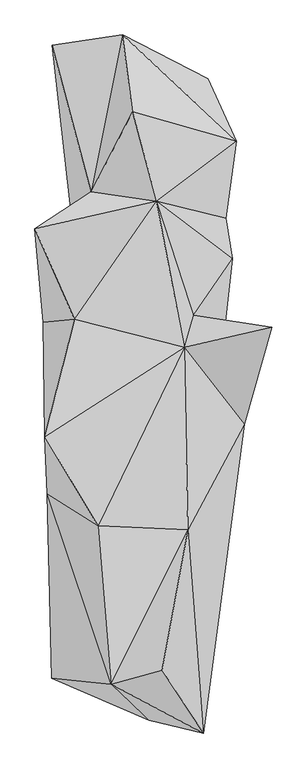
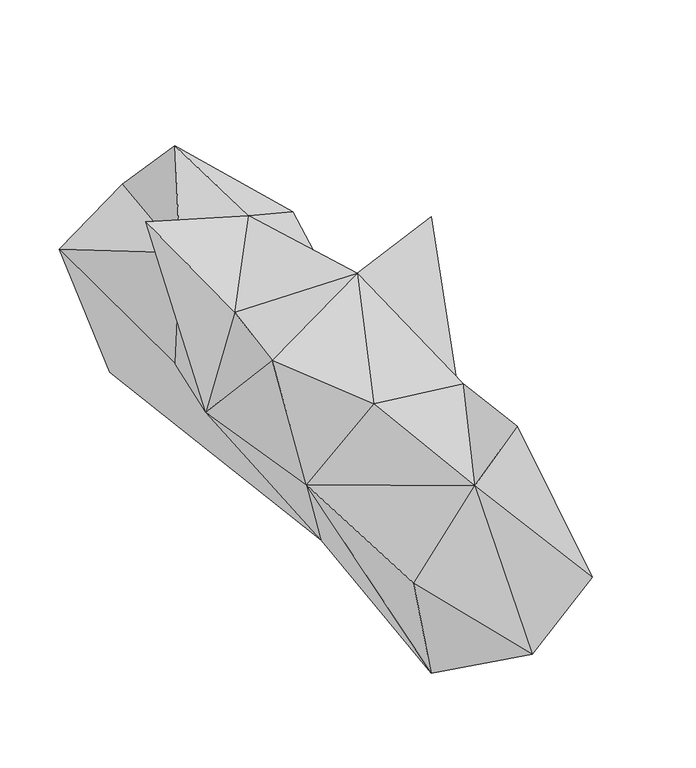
"""IFC4 building model written with IfcOpenShell, lengths in millimetres: geographic element geometry, Enscape AssetDefinition - Potted Plant 250 Snake Plant : Enscape AssetDefinition - Potted Plant 250 Snake Plant 8."""

from ifc_helpers import new_model, si_unit, origin, place, context, project, spatial, triangles, source, transform, mapped, element, save


def geographic_element_d4e18414(model_context):
    return source(origin(), model_context, "Body", "Tessellation", [
        triangles([(-11.7816346, 426.4016255, 344.6494572), (-26.7703863, 543.8439119, 215.2853512), (103.4185966, 476.7359442, 44.3406665), (21.6286898, 417.6580095, 0.0), (-74.7878224, 304.4520743, 263.3750939), (130.9742548, 264.0541223, 180.9388649), (147.0859076, 381.9339546, 207.0101114), (107.7775329, 283.2754054, 63.241961), (56.0657184, -54.7164821, 0.0), (25.1715445, 289.9134632, 299.0739687), (81.4434844, 116.7833604, 218.743316), (140.8495967, 202.3424458, 179.0017556), (116.4620864, -17.4634008, 111.9258444), (201.0504461, 98.1712788, 351.4402491), (159.0379306, -49.4811095, 161.7207065), (73.221053, -210.4869523, 306.1810567), (96.3442101, -520.4522801, 165.1440622), (107.1142286, -388.582713, 0.0), (13.2798807, -501.0731578, 54.8271358), (33.671246, -424.7638258, 380.0000247), (-64.4025824, -204.5631314, 318.3500087), (-135.0075206, -436.865449, 185.9158321), (-44.4274299, -445.7750796, 320.8900426), (-60.6792858, -55.4344843, 0.0), (-2.5695899, -379.597651, 0.0), (-103.1721364, -428.2029327, 20.3077448), (-141.5776682, -155.7817703, 181.2456594), (67.3688984, 67.7555663, 322.9264735), (-145.3292652, -68.9193261, 336.3283081), (-100.1586757, 110.0554008, 291.2489013), (-147.8963232, 106.1661215, 144.4773277), (-104.4805231, 265.6875255, 113.9226793), (-160.6952422, 248.2260005, 379.1248238), (-110.4005651, 432.6159265, 0.0), (-134.4095919, 528.3854805, 154.2263057)], [[4, 9, 24], [34, 4, 24], [4, 34, 35], [35, 34, 32], [24, 32, 34], [5, 35, 32], [5, 33, 10], [28, 10, 30], [33, 30, 10], [31, 33, 5], [24, 31, 32], [31, 5, 32], [30, 33, 31], [29, 30, 31], [28, 30, 29], [28, 29, 21], [27, 21, 29], [27, 29, 31], [27, 31, 24], [27, 26, 22], [27, 24, 26], [24, 25, 26], [24, 9, 25], [22, 26, 19], [26, 25, 19], [21, 27, 23], [22, 19, 23], [27, 22, 23], [16, 23, 20], [28, 21, 16], [16, 21, 23], [17, 16, 20], [17, 23, 19], [20, 23, 17], [18, 25, 9], [19, 25, 18], [17, 19, 18], [18, 15, 17], [15, 28, 16], [15, 16, 17], [28, 15, 14], [9, 15, 18], [15, 9, 13], [15, 13, 11], [14, 15, 11], [10, 28, 11], [11, 28, 14], [12, 11, 13], [12, 13, 9], [12, 10, 11], [6, 10, 12], [4, 8, 9], [6, 12, 8], [8, 12, 9], [8, 4, 3], [7, 10, 6], [7, 6, 8], [8, 3, 7], [1, 10, 7], [5, 10, 1], [2, 7, 3], [4, 35, 2], [5, 2, 35], [5, 1, 2], [2, 3, 4], [2, 1, 7]]),
    ])


if __name__ == "__main__":
    model = new_model("IFC4")
    model_context = context("Model", 3, world=origin())
    ifc_project = project(units=[si_unit("LENGTHUNIT", "METRE", prefix="MILLI")], contexts=[model_context])
    site = spatial("IfcSite", under=ifc_project)
    building = spatial("IfcBuilding", under=site)
    placement = place(None, origin())
    geographic_element_shape = geographic_element_d4e18414(model_context)
    element("IfcGeographicElement", 1, ObjectType="Enscape AssetDefinition - Potted Plant 250 Snake Plant : Enscape AssetDefinition - Potted Plant 250 Snake Plant 8", at=placement, inside=building, context=model_context, shape_type="MappedRepresentation", body=[
        mapped(geographic_element_shape, transform((0.0, 0.0, 0.0), x_axis=(1.0, 0.0, 0.0), y_axis=(0.0, 1.0, 0.0), z_axis=(0.0, 0.0, 1.0))),
    ])
    save(model, "model.ifc")
